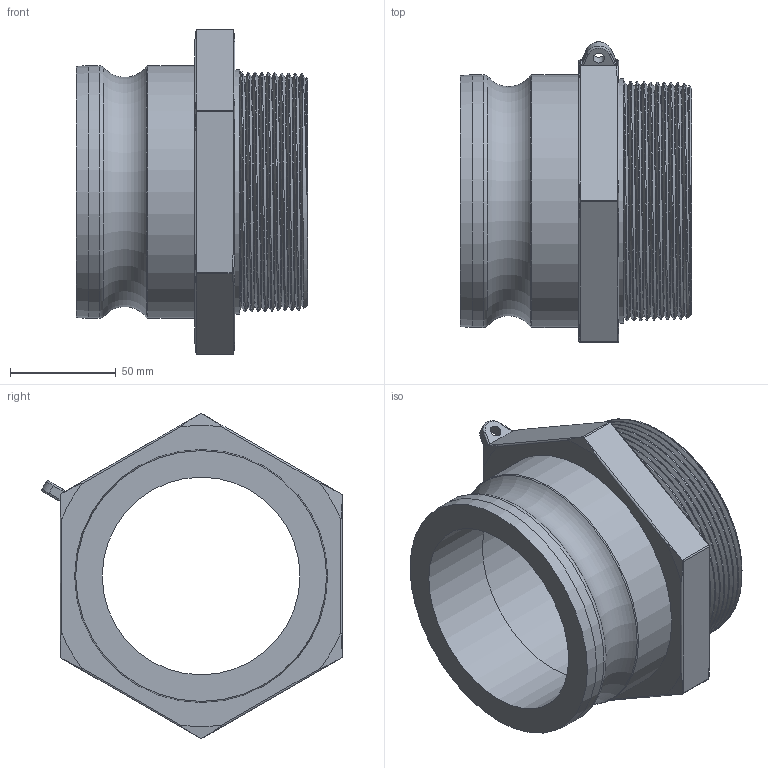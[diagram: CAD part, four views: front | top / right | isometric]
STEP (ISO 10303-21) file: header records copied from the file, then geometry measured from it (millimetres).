
FILE_DESCRIPTION(/* description */ ('Alibre Inc.'),/* implementation_level */ '2;1');
FILE_NAME(/* name */ 'export0',/* time_stamp */ '2016-09-13T11:02:35-04:00',/* author */ (''),/* organization */ (''),/* preprocessor_version */ 'ST-DEVELOPER v14',/* originating_system */ 'Alibre',/* authorisation */ '');
FILE_SCHEMA (('CONFIG_CONTROL_DESIGN'));
Length unit declared in the file: centimetre
Products named in the file (1): ID_1
Bounding box: 109.22 x 141.98 x 153.74 mm (x, y, z)
Volume: 433292.8 mm3; surface area: 99002.3 mm2
Topology: 1 solids, 1 shells, 112 faces, 274 edges, 168 vertices
Faces by surface type: cone 37, cylinder 30, plane 16, sphere 16, bspline 7, torus 6
Full cylindrical faces by diameter (mm): 5.334 x1, 93.472 x1, 97.028 x1, 115.495 x1, 119.583 x2
Entity records: 43688 total; most frequent: CARTESIAN_POINT 41228, ORIENTED_EDGE 520, DIRECTION 430, EDGE_CURVE 260, AXIS2_PLACEMENT_3D 189, VERTEX_POINT 164, EDGE_LOOP 130, FACE_BOUND 130
